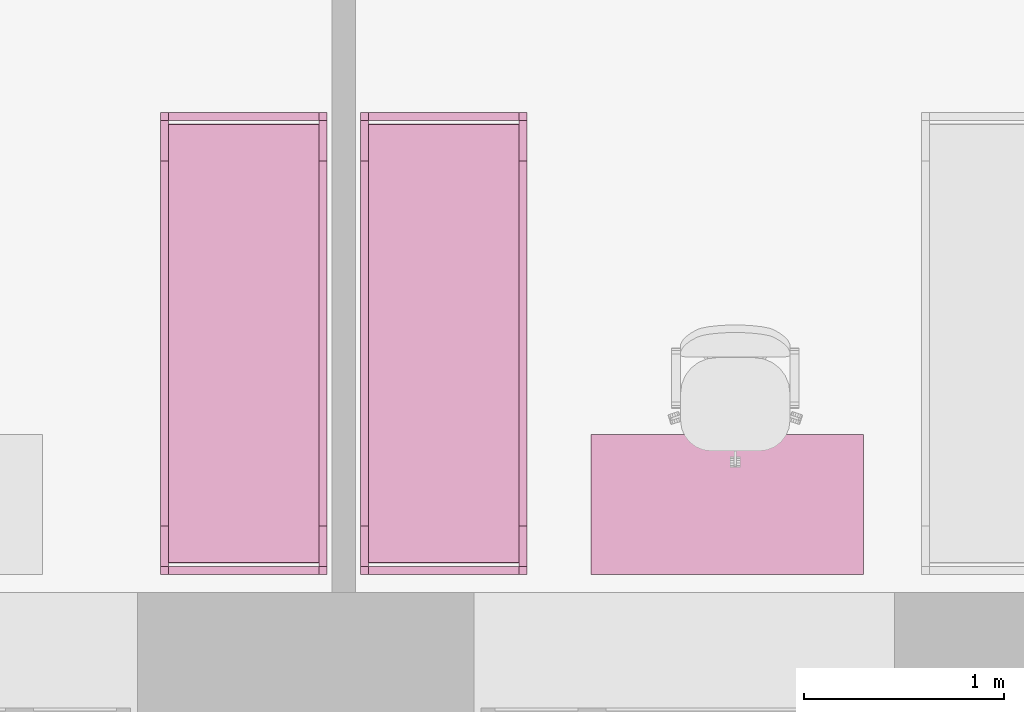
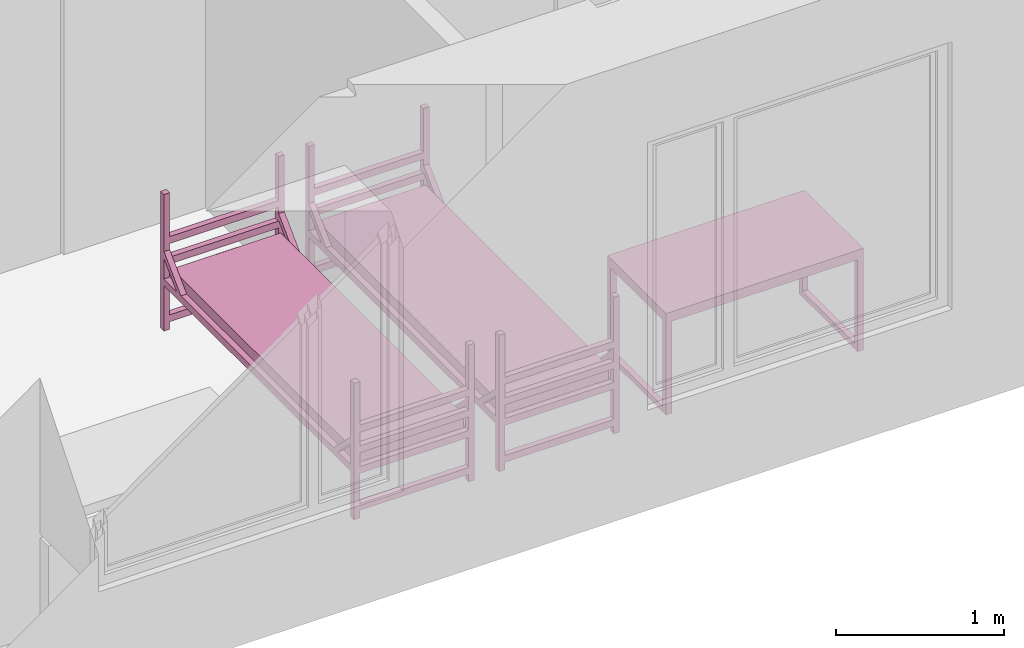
# One storey, part 29 of 46: 3 furnishings.
"""IFC2X3 building model written with IfcOpenShell, lengths in millimetres."""

from ifc_helpers import new_model, entity, si_unit, converted_unit, derived_unit, direction, frame, frame_2d, origin, origin_2d_with_axis, place, context, subcontext, project, spatial, polyline, circle_curve, parameter, trimmed, segment, composite_curve, rectangle, outline, extrude, faceted_brep, source, transform, mapped, material, material_list, type_object, type_shapes, element, save


model = new_model("IFC2X3")

# Units and contexts
model_context = context("Model", 3, precision=0.01, world=origin(), true_north=direction((6.12303176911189e-17, 1.0)))
body_context = subcontext(model_context, "Body", "Model", "MODEL_VIEW")
ifc_project = project(units=[si_unit("LENGTHUNIT", "METRE", prefix="MILLI"), si_unit("AREAUNIT", "SQUARE_METRE"), si_unit("VOLUMEUNIT", "CUBIC_METRE"), converted_unit("PLANEANGLEUNIT", "DEGREE", entity("IfcRatioMeasure", 0.0174532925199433), si_unit("PLANEANGLEUNIT", "RADIAN"), dimensions=[0, 0, 0, 0, 0, 0, 0]), si_unit("MASSUNIT", "GRAM", prefix="KILO"), derived_unit("MASSDENSITYUNIT", [(si_unit("MASSUNIT", "GRAM", prefix="KILO"), 1), (si_unit("LENGTHUNIT", "METRE"), -3)]), si_unit("TIMEUNIT", "SECOND"), si_unit("FREQUENCYUNIT", "HERTZ"), si_unit("THERMODYNAMICTEMPERATUREUNIT", "DEGREE_CELSIUS"), derived_unit("THERMALTRANSMITTANCEUNIT", [(si_unit("MASSUNIT", "GRAM", prefix="KILO"), 1), (si_unit("THERMODYNAMICTEMPERATUREUNIT", "KELVIN"), -1), (si_unit("TIMEUNIT", "SECOND"), -3)]), derived_unit("VOLUMETRICFLOWRATEUNIT", [(si_unit("LENGTHUNIT", "METRE"), 3), (si_unit("TIMEUNIT", "SECOND"), -1)]), si_unit("ELECTRICCURRENTUNIT", "AMPERE"), si_unit("ELECTRICVOLTAGEUNIT", "VOLT"), si_unit("POWERUNIT", "WATT"), si_unit("FORCEUNIT", "NEWTON", prefix="KILO"), si_unit("ILLUMINANCEUNIT", "LUX"), si_unit("LUMINOUSFLUXUNIT", "LUMEN"), si_unit("LUMINOUSINTENSITYUNIT", "CANDELA"), derived_unit("USERDEFINED", [(si_unit("MASSUNIT", "GRAM", prefix="KILO"), -1), (si_unit("LENGTHUNIT", "METRE"), -2), (si_unit("TIMEUNIT", "SECOND"), 3), (si_unit("LUMINOUSFLUXUNIT", "LUMEN"), 1)]), derived_unit("LINEARVELOCITYUNIT", [(si_unit("LENGTHUNIT", "METRE"), 1), (si_unit("TIMEUNIT", "SECOND"), -1)]), si_unit("PRESSUREUNIT", "PASCAL"), derived_unit("USERDEFINED", [(si_unit("LENGTHUNIT", "METRE"), -2), (si_unit("MASSUNIT", "GRAM", prefix="KILO"), 1), (si_unit("TIMEUNIT", "SECOND"), -2)]), derived_unit("LINEARFORCEUNIT", [(si_unit("MASSUNIT", "GRAM", prefix="KILO"), 1), (si_unit("LENGTHUNIT", "METRE"), 1), (si_unit("TIMEUNIT", "SECOND"), -2), (si_unit("LENGTHUNIT", "METRE"), -1)]), derived_unit("PLANARFORCEUNIT", [(si_unit("MASSUNIT", "GRAM", prefix="KILO"), 1), (si_unit("LENGTHUNIT", "METRE"), 1), (si_unit("TIMEUNIT", "SECOND"), -2), (si_unit("LENGTHUNIT", "METRE"), -2)])], contexts=[model_context])

# Site, building, storey, space
site_placement = place(None, origin())
site = spatial("IfcSite", under=ifc_project, at=site_placement, Name="Default", CompositionType="ELEMENT")
building_placement = place(site_placement, origin())
building = spatial("IfcBuilding", under=site, at=building_placement, Name="SMA ARH", CompositionType="ELEMENT")
storey_placement = place(building_placement, origin())
storey = spatial("IfcBuildingStorey", under=building, at=storey_placement, Name="1 Korrus", CompositionType="ELEMENT", Elevation=0.0)
space_1_placement = place(storey_placement, origin())
space_1 = spatial("IfcSpace", under=storey, at=space_1_placement, Name="1-14", CompositionType="ELEMENT", InteriorOrExteriorSpace="INTERNAL")

# Furnishing
ifc_material_1 = material(Name="Madrats")
furniture_type_1 = type_object("IfcFurnitureType", Name="Kasarmu voodi ühekordne 2308x830:Kasarmu voodi ühekordne 2308x830", material=ifc_material_1)
shared_shape_1 = source(origin(), body_context, "Body", "SweptSolid", [
    extrude(rectangle(XDim=39.9999999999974, YDim=750.000000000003, at=frame_2d((-1.35003119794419e-13, -2.8421709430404e-14), x_axis=(1.0, 0.0))), frame((1.68638457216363, -1226.7969571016, 55.0), z_axis=(0.0, 0.0, 1.0), x_axis=(0.0, -1.0, 0.0)), (0.0, 0.0, 1.0), 49.9999999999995),
    extrude(rectangle(XDim=39.9999999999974, YDim=750.000000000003, at=frame_2d((-1.35003119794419e-13, -2.8421709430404e-14), x_axis=(1.0, 0.0))), frame((1.68638457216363, -1226.7969571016, 325.0), z_axis=(0.0, 0.0, 1.0), x_axis=(0.0, -1.0, 0.0)), (0.0, 0.0, 1.0), 49.9999999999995),
    extrude(rectangle(XDim=39.9999999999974, YDim=750.000000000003, at=frame_2d((-1.35003119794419e-13, -2.8421709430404e-14), x_axis=(1.0, 0.0))), frame((1.68638457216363, -1226.7969571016, 475.0), z_axis=(0.0, 0.0, 1.0), x_axis=(0.0, -1.0, 0.0)), (0.0, 0.0, 1.0), 49.9999999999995),
    extrude(rectangle(XDim=39.9999999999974, YDim=750.000000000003, at=frame_2d((-1.35003119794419e-13, -2.8421709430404e-14), x_axis=(1.0, 0.0))), frame((1.68638457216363, -1226.7969571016, 625.0), z_axis=(0.0, 0.0, 1.0), x_axis=(0.0, -1.0, 0.0)), (0.0, 0.0, 1.0), 50.0000000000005),
    extrude(rectangle(XDim=39.9999999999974, YDim=750.000000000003, at=frame_2d((1.35003119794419e-13, -2.8421709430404e-14), x_axis=(1.0, 0.0))), frame((1.68638457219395, 1041.2030428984, 55.0), z_axis=(0.0, 0.0, 1.0), x_axis=(0.0, -1.0, 0.0)), (0.0, 0.0, 1.0), 50.0000000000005),
    extrude(rectangle(XDim=39.9999999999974, YDim=750.000000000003, at=frame_2d((1.35003119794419e-13, -2.8421709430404e-14), x_axis=(1.0, 0.0))), frame((1.68638457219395, 1041.2030428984, 325.0), z_axis=(0.0, 0.0, 1.0), x_axis=(0.0, -1.0, 0.0)), (0.0, 0.0, 1.0), 50.0000000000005),
    extrude(rectangle(XDim=39.9999999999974, YDim=750.000000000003, at=frame_2d((1.35003119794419e-13, -2.8421709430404e-14), x_axis=(1.0, 0.0))), frame((1.68638457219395, 1041.2030428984, 475.0), z_axis=(0.0, 0.0, 1.0), x_axis=(0.0, -1.0, 0.0)), (0.0, 0.0, 1.0), 50.0000000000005),
    extrude(rectangle(XDim=39.9999999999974, YDim=750.000000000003, at=frame_2d((1.35003119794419e-13, -2.8421709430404e-14), x_axis=(1.0, 0.0))), frame((1.68638457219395, 1041.2030428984, 625.0), z_axis=(0.0, 0.0, 1.0), x_axis=(0.0, -1.0, 0.0)), (0.0, 0.0, 1.0), 49.9999999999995),
    extrude(outline(composite_curve([segment(trimmed(circle_curve(frame_2d((1085.0, -40.0), x_axis=(1.0, 0.0)), 10.0), [parameter(270.0)], [parameter(0.0)], True, "PARAMETER"), True, "CONTINUOUS"), segment(polyline([(1095.0, -40.0), (1095.0, 40.0)]), True, "CONTINUOUS"), segment(trimmed(circle_curve(frame_2d((1085.0, 40.0), x_axis=(1.0, 0.0)), 10.0), [parameter(0.0)], [parameter(90.0000000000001)], True, "PARAMETER"), True, "CONTINUOUS"), segment(polyline([(1085.0, 50.0), (-1085.0, 50.0)]), True, "CONTINUOUS"), segment(trimmed(circle_curve(frame_2d((-1085.0, 40.0), x_axis=(1.0, 0.0)), 10.0), [parameter(90.0000000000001)], [parameter(180.0)], True, "PARAMETER"), True, "CONTINUOUS"), segment(polyline([(-1095.0, 40.0), (-1095.0, -40.0)]), True, "CONTINUOUS"), segment(trimmed(circle_curve(frame_2d((-1085.0, -40.0), x_axis=(1.0, 0.0)), 10.0), [parameter(180.0)], [parameter(270.0)], True, "PARAMETER"), True, "CONTINUOUS"), segment(polyline([(-1085.0, -50.0), (1085.0, -50.0)]), True, "CONTINUOUS")], self_intersect=False)), frame((-373.313615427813, -92.7969571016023, 405.0), z_axis=(1.0, 0.0, 0.0), x_axis=(0.0, -1.0, 0.0)), (0.0, 0.0, 1.0), 750.000000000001),
    extrude(outline(polyline([(-1114.0, -100.0), (1114.0, -100.0), (1114.0, -50.0), (961.59199141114, -50.0), (1114.0, 100.0), (1114.0, 150.0), (910.789321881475, -50.0), (-910.789321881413, -50.0), (-1114.0, 150.0), (-1114.0, 100.0), (-961.591991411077, -50.0), (-1114.0, -50.0), (-1114.0, -100.0)])), frame((-413.313615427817, -92.7969571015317, 430.0), z_axis=(1.0, 0.0, 0.0), x_axis=(0.0, 1.0, 0.0)), (0.0, 0.0, 1.0), 39.9999999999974),
    extrude(outline(polyline([(-1114.0, -100.0), (1114.0, -100.0), (1114.0, -50.0), (961.591991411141, -50.0), (1114.0, 100.0), (1114.0, 150.0), (910.789321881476, -50.0), (-910.789321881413, -50.0), (-1114.0, 150.0), (-1114.0, 100.0), (-961.591991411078, -50.0), (-1114.0, -50.0), (-1114.0, -100.0)])), frame((376.686384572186, -92.796957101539, 430.0), z_axis=(1.0, 0.0, 0.0), x_axis=(0.0, 1.0, 0.0)), (0.0, 0.0, 1.0), 39.9999999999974),
    extrude(rectangle(XDim=39.9999999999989, YDim=39.9999999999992, at=frame_2d((-6.75015598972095e-14, 0.0), x_axis=(1.0, 0.0))), frame((396.686384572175, -1226.79695710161, 0.0), z_axis=(0.0, 0.0, 1.0), x_axis=(0.0, 1.0, 0.0)), (0.0, 0.0, 1.0), 995.0),
    extrude(rectangle(XDim=39.9999999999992, YDim=39.9999999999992, at=frame_2d((-1.35003119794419e-13, 0.0), x_axis=(1.0, 0.0))), frame((396.686384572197, 1041.20304289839, 0.0), z_axis=(0.0, 0.0, 1.0), x_axis=(0.0, 1.0, 0.0)), (0.0, 0.0, 1.0), 995.0),
    extrude(rectangle(XDim=40.0000000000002, YDim=39.9999999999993, at=frame_2d((-1.35003119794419e-13, 0.0), x_axis=(1.0, 0.0))), frame((-393.313615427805, 1041.2030428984, 0.0), z_axis=(0.0, 0.0, 1.0), x_axis=(0.0, 1.0, 0.0)), (0.0, 0.0, 1.0), 995.0),
    extrude(rectangle(XDim=39.9999999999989, YDim=39.9999999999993, at=frame_2d((-6.75015598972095e-14, 0.0), x_axis=(1.0, 0.0))), frame((-393.313615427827, -1226.7969571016, 0.0), z_axis=(0.0, 0.0, 1.0), x_axis=(0.0, 1.0, 0.0)), (0.0, 0.0, 1.0), 995.0),
])
type_shapes(furniture_type_1, [shared_shape_1])
furnishing_1_placement = place(space_1_placement, frame((7628.8136154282, 1336.79695710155, 0.0)))
element("IfcFurnishingElement", 1, at=furnishing_1_placement, inside=space_1, type_object=furniture_type_1, material=ifc_material_1, Name="Kasarmu voodi ühekordne 2308x830:Kasarmu voodi ühekordne 2308x830", ObjectType="Kasarmu voodi ühekordne 2308x830:Kasarmu voodi ühekordne 2308x830", context=body_context, shape_type="MappedRepresentation", body=[
    mapped(shared_shape_1, transform((0.0, 0.0, 0.0), scale=1.0)),
])

# Space
space_2_placement = place(storey_placement, origin())
space_2 = spatial("IfcSpace", under=storey, at=space_2_placement, Name="1-13", CompositionType="ELEMENT", InteriorOrExteriorSpace="INTERNAL")

# Furnishings
ifc_material_2 = material(Name="<Unnamed>")
ifc_material_list = material_list([ifc_material_2, ifc_material_2])
furniture_type_2 = type_object("IfcFurnitureType", Name="kirjutuslaud 1360x700mm:kirjutuslaud 1360x700mm", material=ifc_material_list)
shared_shape_2 = source(origin(), body_context, "Body", "Brep", [
    faceted_brep([(680.0, -350.0, 720.0), (680.0, 350.0, 720.0), (680.0, 350.0, 750.0), (680.0, -350.0, 750.0), (-680.0, -350.0, 720.0), (-680.0, -350.0, 750.0), (-680.0, 350.0, 750.0), (-680.0, 350.0, 720.0)], [[[0, 1, 2, 3]], [[4, 5, 6, 7]], [[1, 0, 4, 7]], [[2, 1, 7, 6]], [[3, 2, 6, 5]], [[0, 3, 5, 4]]]),
    faceted_brep([(-640.0, -310.0, 680.0), (-640.0, 310.0, 680.0), (-640.0, 310.0, 720.0), (-640.0, -310.0, 720.0), (-680.0, -350.0, 720.0), (-680.0, 350.0, 720.0), (-680.0, 350.0, 10.0), (-680.0, -350.0, 10.0), (-680.0, 310.0, 680.0), (-680.0, -310.0, 680.0), (-680.0, -310.0, 50.0), (-680.0, 310.0, 50.0), (-640.0, -350.0, 10.0), (-640.0, -350.0, 680.0), (640.0, -350.0, 680.0), (640.0, -350.0, 10.0), (680.0, -350.0, 10.0), (680.0, -350.0, 720.0), (-640.0, 350.0, 10.0), (680.0, 350.0, 720.0), (680.0, 350.0, 10.0), (640.0, 350.0, 10.0), (640.0, 350.0, 680.0), (-640.0, 350.0, 680.0), (640.0, 310.0, 720.0), (640.0, -310.0, 720.0), (-640.0, 310.0, 50.0), (-640.0, -310.0, 50.0), (640.0, -310.0, 680.0), (640.0, 310.0, 680.0), (680.0, 310.0, 680.0), (680.0, 310.0, 50.0), (680.0, -310.0, 50.0), (680.0, -310.0, 680.0), (640.0, -310.0, 50.0), (640.0, 310.0, 50.0)], [[[0, 1, 2, 3]], [[4, 5, 6, 7], [8, 9, 10, 11]], [[4, 7, 12, 13, 14, 15, 16, 17]], [[18, 12, 7, 6]], [[6, 5, 19, 20, 21, 22, 23, 18]], [[19, 5, 4, 17], [2, 24, 25, 3]], [[26, 1, 8, 11]], [[27, 26, 11, 10]], [[0, 27, 10, 9]], [[1, 0, 9, 8]], [[14, 13, 0, 28]], [[24, 2, 1, 29]], [[3, 25, 28, 0]], [[17, 16, 20, 19], [30, 31, 32, 33]], [[21, 15, 14, 28, 34, 35, 29, 22]], [[20, 16, 15, 21]], [[31, 30, 29, 35]], [[32, 31, 35, 34]], [[33, 32, 34, 28]], [[30, 33, 28, 29]], [[29, 28, 25, 24]], [[29, 1, 23, 22]], [[12, 18, 23, 1, 26, 27, 0, 13]]]),
    faceted_brep([(-663.729456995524, -270.466136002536, 0.0), (-659.847171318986, -269.955023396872, 0.0), (-655.964885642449, -270.466136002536, 0.0), (-652.347171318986, -271.964642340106, 0.0), (-649.240569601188, -274.348421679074, 0.0), (-646.85679026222, -277.455023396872, 0.0), (-645.35828392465, -281.072737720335, 0.0), (-644.847171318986, -284.955023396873, 0.0), (-645.35828392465, -288.83730907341, 0.0), (-646.85679026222, -292.455023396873, 0.0), (-649.240569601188, -295.561625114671, 0.0), (-652.347171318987, -297.945404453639, 0.0), (-655.964885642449, -299.443910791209, 0.0), (-659.847171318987, -299.955023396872, 0.0), (-663.729456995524, -299.443910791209, 0.0), (-667.347171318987, -297.945404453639, 0.0), (-670.453773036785, -295.561625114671, 0.0), (-672.837552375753, -292.455023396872, 0.0), (-674.336058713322, -288.83730907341, 0.0), (-674.847171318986, -284.955023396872, 0.0), (-674.336058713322, -281.072737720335, 0.0), (-672.837552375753, -277.455023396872, 0.0), (-670.453773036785, -274.348421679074, 0.0), (-667.347171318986, -271.964642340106, 0.0), (-655.964885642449, -299.443910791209, 10.0), (-652.347171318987, -297.945404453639, 10.0), (-649.240569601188, -295.561625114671, 10.0), (-646.85679026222, -292.455023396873, 10.0), (-645.35828392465, -288.83730907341, 10.0), (-644.847171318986, -284.955023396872, 10.0), (-645.35828392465, -281.072737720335, 10.0), (-646.85679026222, -277.455023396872, 10.0), (-649.240569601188, -274.348421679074, 10.0), (-652.347171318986, -271.964642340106, 10.0), (-655.964885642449, -270.466136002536, 10.0), (-659.847171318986, -269.955023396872, 10.0), (-663.729456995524, -270.466136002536, 10.0), (-667.347171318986, -271.964642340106, 10.0), (-670.453773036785, -274.348421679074, 10.0), (-672.837552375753, -277.455023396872, 10.0), (-674.336058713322, -281.072737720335, 10.0), (-674.847171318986, -284.955023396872, 10.0), (-674.336058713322, -288.83730907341, 10.0), (-672.837552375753, -292.455023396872, 10.0), (-670.453773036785, -295.561625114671, 10.0), (-667.347171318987, -297.945404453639, 10.0), (-663.729456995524, -299.443910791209, 10.0), (-659.847171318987, -299.955023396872, 10.0)], [[[0, 1, 2, 3, 4, 5, 6, 7, 8, 9, 10, 11, 12, 13, 14, 15, 16, 17, 18, 19, 20, 21, 22, 23]], [[24, 25, 26, 27, 28, 29, 30, 31, 32, 33, 34, 35, 36, 37, 38, 39, 40, 41, 42, 43, 44, 45, 46, 47]], [[18, 42, 41, 19]], [[17, 43, 42, 18]], [[45, 44, 16, 15]], [[17, 16, 44, 43]], [[46, 45, 15, 14]], [[47, 46, 14, 13]], [[12, 24, 47, 13]], [[11, 25, 24, 12]], [[27, 26, 10, 9]], [[11, 10, 26, 25]], [[28, 27, 9, 8]], [[29, 28, 8, 7]], [[6, 30, 29, 7]], [[5, 31, 30, 6]], [[33, 32, 4, 3]], [[5, 4, 32, 31]], [[34, 33, 3, 2]], [[35, 34, 2, 1]], [[0, 36, 35, 1]], [[23, 37, 36, 0]], [[39, 38, 22, 21]], [[23, 22, 38, 37]], [[40, 39, 21, 20]], [[41, 40, 20, 19]]]),
    faceted_brep([(-655.964885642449, 270.466136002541, 10.0), (-652.347171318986, 271.964642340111, 10.0), (-649.240569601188, 274.348421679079, 10.0), (-646.85679026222, 277.455023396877, 10.0), (-645.35828392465, 281.07273772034, 10.0), (-644.847171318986, 284.955023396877, 10.0), (-645.35828392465, 288.837309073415, 10.0), (-646.85679026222, 292.455023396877, 10.0), (-649.240569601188, 295.561625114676, 10.0), (-652.347171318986, 297.945404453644, 10.0), (-655.964885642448, 299.443910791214, 10.0), (-659.847171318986, 299.955023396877, 10.0), (-663.729456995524, 299.443910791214, 10.0), (-667.347171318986, 297.945404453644, 10.0), (-670.453773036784, 295.561625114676, 10.0), (-672.837552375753, 292.455023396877, 10.0), (-674.336058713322, 288.837309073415, 10.0), (-674.847171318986, 284.955023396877, 10.0), (-674.336058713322, 281.07273772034, 10.0), (-672.837552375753, 277.455023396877, 10.0), (-670.453773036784, 274.348421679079, 10.0), (-667.347171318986, 271.964642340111, 10.0), (-663.729456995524, 270.466136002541, 10.0), (-659.847171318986, 269.955023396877, 10.0), (-655.964885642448, 299.443910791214, 0.0), (-652.347171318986, 297.945404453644, 0.0), (-649.240569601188, 295.561625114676, 0.0), (-646.85679026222, 292.455023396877, 0.0), (-645.35828392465, 288.837309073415, 0.0), (-644.847171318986, 284.955023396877, 0.0), (-645.35828392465, 281.07273772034, 0.0), (-646.85679026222, 277.455023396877, 0.0), (-649.240569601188, 274.348421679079, 0.0), (-652.347171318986, 271.964642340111, 0.0), (-655.964885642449, 270.466136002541, 0.0), (-659.847171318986, 269.955023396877, 0.0), (-663.729456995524, 270.466136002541, 0.0), (-667.347171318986, 271.964642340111, 0.0), (-670.453773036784, 274.348421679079, 0.0), (-672.837552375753, 277.455023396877, 0.0), (-674.336058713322, 281.07273772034, 0.0), (-674.847171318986, 284.955023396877, 0.0), (-674.336058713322, 288.837309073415, 0.0), (-672.837552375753, 292.455023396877, 0.0), (-670.453773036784, 295.561625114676, 0.0), (-667.347171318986, 297.945404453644, 0.0), (-663.729456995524, 299.443910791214, 0.0), (-659.847171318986, 299.955023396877, 0.0)], [[[0, 1, 2, 3, 4, 5, 6, 7, 8, 9, 10, 11, 12, 13, 14, 15, 16, 17, 18, 19, 20, 21, 22, 23]], [[24, 25, 26, 27, 28, 29, 30, 31, 32, 33, 34, 35, 36, 37, 38, 39, 40, 41, 42, 43, 44, 45, 46, 47]], [[40, 18, 17, 41]], [[39, 19, 18, 40]], [[21, 20, 38, 37]], [[39, 38, 20, 19]], [[22, 21, 37, 36]], [[23, 22, 36, 35]], [[34, 0, 23, 35]], [[33, 1, 0, 34]], [[3, 2, 32, 31]], [[33, 32, 2, 1]], [[4, 3, 31, 30]], [[5, 4, 30, 29]], [[28, 6, 5, 29]], [[27, 7, 6, 28]], [[9, 8, 26, 25]], [[27, 26, 8, 7]], [[10, 9, 25, 24]], [[11, 10, 24, 47]], [[46, 12, 11, 47]], [[45, 13, 12, 46]], [[15, 14, 44, 43]], [[45, 44, 14, 13]], [[16, 15, 43, 42]], [[17, 16, 42, 41]]]),
    faceted_brep([(656.270543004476, -270.466136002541, 0.0), (660.152828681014, -269.955023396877, 0.0), (664.035114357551, -270.466136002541, 0.0), (667.652828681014, -271.96464234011, 0.0), (670.759430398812, -274.348421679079, 0.0), (673.14320973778, -277.455023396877, 0.0), (674.64171607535, -281.072737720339, 0.0), (675.152828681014, -284.955023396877, 0.0), (674.64171607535, -288.837309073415, 0.0), (673.14320973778, -292.455023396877, 0.0), (670.759430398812, -295.561625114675, 0.0), (667.652828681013, -297.945404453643, 0.0), (664.035114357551, -299.443910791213, 0.0), (660.152828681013, -299.955023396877, 0.0), (656.270543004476, -299.443910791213, 0.0), (652.652828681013, -297.945404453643, 0.0), (649.546226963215, -295.561625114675, 0.0), (647.162447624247, -292.455023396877, 0.0), (645.663941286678, -288.837309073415, 0.0), (645.152828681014, -284.955023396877, 0.0), (645.663941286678, -281.072737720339, 0.0), (647.162447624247, -277.455023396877, 0.0), (649.546226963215, -274.348421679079, 0.0), (652.652828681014, -271.96464234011, 0.0), (664.035114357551, -299.443910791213, 10.0), (667.652828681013, -297.945404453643, 10.0), (670.759430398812, -295.561625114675, 10.0), (673.14320973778, -292.455023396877, 10.0), (674.64171607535, -288.837309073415, 10.0), (675.152828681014, -284.955023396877, 10.0), (674.64171607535, -281.072737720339, 10.0), (673.14320973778, -277.455023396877, 10.0), (670.759430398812, -274.348421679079, 10.0), (667.652828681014, -271.96464234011, 10.0), (664.035114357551, -270.466136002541, 10.0), (660.152828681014, -269.955023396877, 10.0), (656.270543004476, -270.466136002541, 10.0), (652.652828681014, -271.96464234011, 10.0), (649.546226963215, -274.348421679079, 10.0), (647.162447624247, -277.455023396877, 10.0), (645.663941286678, -281.072737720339, 10.0), (645.152828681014, -284.955023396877, 10.0), (645.663941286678, -288.837309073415, 10.0), (647.162447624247, -292.455023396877, 10.0), (649.546226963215, -295.561625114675, 10.0), (652.652828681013, -297.945404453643, 10.0), (656.270543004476, -299.443910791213, 10.0), (660.152828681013, -299.955023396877, 10.0)], [[[0, 1, 2, 3, 4, 5, 6, 7, 8, 9, 10, 11, 12, 13, 14, 15, 16, 17, 18, 19, 20, 21, 22, 23]], [[24, 25, 26, 27, 28, 29, 30, 31, 32, 33, 34, 35, 36, 37, 38, 39, 40, 41, 42, 43, 44, 45, 46, 47]], [[18, 42, 41, 19]], [[17, 43, 42, 18]], [[45, 44, 16, 15]], [[17, 16, 44, 43]], [[46, 45, 15, 14]], [[47, 46, 14, 13]], [[12, 24, 47, 13]], [[11, 25, 24, 12]], [[27, 26, 10, 9]], [[11, 10, 26, 25]], [[28, 27, 9, 8]], [[29, 28, 8, 7]], [[6, 30, 29, 7]], [[5, 31, 30, 6]], [[33, 32, 4, 3]], [[5, 4, 32, 31]], [[34, 33, 3, 2]], [[35, 34, 2, 1]], [[0, 36, 35, 1]], [[23, 37, 36, 0]], [[39, 38, 22, 21]], [[23, 22, 38, 37]], [[40, 39, 21, 20]], [[41, 40, 20, 19]]]),
    faceted_brep([(664.035114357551, 270.466136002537, 10.0), (667.652828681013, 271.964642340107, 10.0), (670.759430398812, 274.348421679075, 10.0), (673.14320973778, 277.455023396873, 10.0), (674.64171607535, 281.072737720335, 10.0), (675.152828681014, 284.955023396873, 10.0), (674.64171607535, 288.837309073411, 10.0), (673.14320973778, 292.455023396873, 10.0), (670.759430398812, 295.561625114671, 10.0), (667.652828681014, 297.94540445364, 10.0), (664.035114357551, 299.443910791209, 10.0), (660.152828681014, 299.955023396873, 10.0), (656.270543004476, 299.443910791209, 10.0), (652.652828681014, 297.94540445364, 10.0), (649.546226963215, 295.561625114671, 10.0), (647.162447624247, 292.455023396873, 10.0), (645.663941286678, 288.837309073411, 10.0), (645.152828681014, 284.955023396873, 10.0), (645.663941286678, 281.072737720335, 10.0), (647.162447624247, 277.455023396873, 10.0), (649.546226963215, 274.348421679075, 10.0), (652.652828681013, 271.964642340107, 10.0), (656.270543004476, 270.466136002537, 10.0), (660.152828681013, 269.955023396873, 10.0), (664.035114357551, 299.443910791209, 0.0), (667.652828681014, 297.94540445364, 0.0), (670.759430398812, 295.561625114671, 0.0), (673.14320973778, 292.455023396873, 0.0), (674.64171607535, 288.837309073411, 0.0), (675.152828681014, 284.955023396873, 0.0), (674.64171607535, 281.072737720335, 0.0), (673.14320973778, 277.455023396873, 0.0), (670.759430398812, 274.348421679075, 0.0), (667.652828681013, 271.964642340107, 0.0), (664.035114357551, 270.466136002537, 0.0), (660.152828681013, 269.955023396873, 0.0), (656.270543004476, 270.466136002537, 0.0), (652.652828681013, 271.964642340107, 0.0), (649.546226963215, 274.348421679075, 0.0), (647.162447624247, 277.455023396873, 0.0), (645.663941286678, 281.072737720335, 0.0), (645.152828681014, 284.955023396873, 0.0), (645.663941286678, 288.837309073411, 0.0), (647.162447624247, 292.455023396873, 0.0), (649.546226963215, 295.561625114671, 0.0), (652.652828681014, 297.94540445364, 0.0), (656.270543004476, 299.443910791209, 0.0), (660.152828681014, 299.955023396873, 0.0)], [[[0, 1, 2, 3, 4, 5, 6, 7, 8, 9, 10, 11, 12, 13, 14, 15, 16, 17, 18, 19, 20, 21, 22, 23]], [[24, 25, 26, 27, 28, 29, 30, 31, 32, 33, 34, 35, 36, 37, 38, 39, 40, 41, 42, 43, 44, 45, 46, 47]], [[40, 18, 17, 41]], [[39, 19, 18, 40]], [[21, 20, 38, 37]], [[39, 38, 20, 19]], [[22, 21, 37, 36]], [[23, 22, 36, 35]], [[34, 0, 23, 35]], [[33, 1, 0, 34]], [[3, 2, 32, 31]], [[33, 32, 2, 1]], [[4, 3, 31, 30]], [[5, 4, 30, 29]], [[28, 6, 5, 29]], [[27, 7, 6, 28]], [[9, 8, 26, 25]], [[27, 26, 8, 7]], [[10, 9, 25, 24]], [[11, 10, 24, 47]], [[46, 12, 11, 47]], [[45, 13, 12, 46]], [[15, 14, 44, 43]], [[45, 44, 14, 13]], [[16, 15, 43, 42]], [[17, 16, 42, 41]]]),
])
type_shapes(furniture_type_2, [shared_shape_2])
furnishing_2_placement = place(space_2_placement, frame((10045.5000000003, 440.0, 0.0)))
element("IfcFurnishingElement", 2, at=furnishing_2_placement, inside=space_2, type_object=furniture_type_2, Name="kirjutuslaud 1360x700mm:kirjutuslaud 1360x700mm", ObjectType="kirjutuslaud 1360x700mm:kirjutuslaud 1360x700mm", context=body_context, shape_type="MappedRepresentation", body=[
    mapped(shared_shape_2, transform((0.0, 0.0, 0.0), scale=1.0)),
])
furniture_type_3 = type_object("IfcFurnitureType", Name="Kasarmu voodi ühekordne 2308x830:Kasarmu voodi ühekordne 2308x830", material=ifc_material_1)
shared_shape_3 = source(origin(), body_context, "Body", "SweptSolid", [
    extrude(rectangle(XDim=750.000000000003, YDim=39.9999999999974, at=frame_2d((0.0, 1.35003119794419e-13), x_axis=(1.0, 0.0))), frame((1.68638457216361, 1226.7969571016, 55.0)), (0.0, 0.0, 1.0), 49.9999999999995),
    extrude(rectangle(XDim=750.000000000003, YDim=39.9999999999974, at=frame_2d((0.0, 1.35003119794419e-13), x_axis=(1.0, 0.0))), frame((1.68638457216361, 1226.7969571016, 325.0)), (0.0, 0.0, 1.0), 49.9999999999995),
    extrude(rectangle(XDim=750.000000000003, YDim=39.9999999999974, at=frame_2d((0.0, 1.35003119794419e-13), x_axis=(1.0, 0.0))), frame((1.68638457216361, 1226.7969571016, 475.0)), (0.0, 0.0, 1.0), 49.9999999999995),
    extrude(rectangle(XDim=750.000000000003, YDim=39.9999999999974, at=frame_2d((0.0, 1.35003119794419e-13), x_axis=(1.0, 0.0))), frame((1.68638457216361, 1226.7969571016, 625.0)), (0.0, 0.0, 1.0), 50.0000000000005),
    extrude(rectangle(XDim=750.000000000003, YDim=39.9999999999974, at=origin_2d_with_axis()), frame((1.68638457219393, -1041.2030428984, 55.0)), (0.0, 0.0, 1.0), 50.0000000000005),
    extrude(rectangle(XDim=750.000000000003, YDim=39.9999999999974, at=origin_2d_with_axis()), frame((1.68638457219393, -1041.2030428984, 325.0)), (0.0, 0.0, 1.0), 50.0000000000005),
    extrude(rectangle(XDim=750.000000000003, YDim=39.9999999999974, at=origin_2d_with_axis()), frame((1.68638457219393, -1041.2030428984, 475.0)), (0.0, 0.0, 1.0), 50.0000000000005),
    extrude(rectangle(XDim=750.000000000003, YDim=39.9999999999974, at=origin_2d_with_axis()), frame((1.68638457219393, -1041.2030428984, 625.0)), (0.0, 0.0, 1.0), 49.9999999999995),
    extrude(outline(composite_curve([segment(polyline([(-1085.0, -50.0), (1085.0, -50.0)]), True, "CONTINUOUS"), segment(trimmed(circle_curve(frame_2d((1085.0, -40.0), x_axis=(-1.0, 0.0)), 10.0), [parameter(90.0000000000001)], [parameter(180.0)], True, "PARAMETER"), True, "CONTINUOUS"), segment(polyline([(1095.0, -40.0), (1095.0, 40.0)]), True, "CONTINUOUS"), segment(trimmed(circle_curve(frame_2d((1085.0, 40.0), x_axis=(-1.0, 0.0)), 10.0), [parameter(180.0)], [parameter(270.0)], True, "PARAMETER"), True, "CONTINUOUS"), segment(polyline([(1085.0, 50.0), (-1085.0, 50.0)]), True, "CONTINUOUS"), segment(trimmed(circle_curve(frame_2d((-1085.0, 40.0), x_axis=(-1.0, 0.0)), 10.0), [parameter(270.0)], [parameter(0.0)], True, "PARAMETER"), True, "CONTINUOUS"), segment(polyline([(-1095.0, 40.0), (-1095.0, -40.0)]), True, "CONTINUOUS"), segment(trimmed(circle_curve(frame_2d((-1085.0, -40.0), x_axis=(-1.0, 0.0)), 10.0), [parameter(0.0)], [parameter(90.0000000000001)], True, "PARAMETER"), True, "CONTINUOUS")], self_intersect=False)), frame((-373.313615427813, 92.7969571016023, 405.0), z_axis=(1.0, 0.0, 0.0), x_axis=(0.0, -1.0, 0.0)), (0.0, 0.0, 1.0), 750.000000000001),
    extrude(outline(polyline([(-100.0, -1114.0), (-50.0, -1114.0), (-50.0, -961.591991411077), (100.0, -1114.0), (150.0, -1114.0), (-50.0, -910.789321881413), (-50.0, 910.789321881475), (150.0, 1114.0), (100.0, 1114.0), (-50.0, 961.591991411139), (-50.0, 1114.0), (-100.0, 1114.0), (-100.0, -1114.0)])), frame((-413.313615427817, 92.7969571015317, 430.0), z_axis=(1.0, 0.0, 0.0), x_axis=(0.0, 0.0, 1.0)), (0.0, 0.0, 1.0), 39.9999999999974),
    extrude(outline(polyline([(-100.0, -1114.0), (-50.0, -1114.0), (-50.0, -961.591991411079), (100.0, -1114.0), (150.0, -1114.0), (-50.0, -910.789321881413), (-50.0, 910.789321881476), (150.0, 1114.0), (100.0, 1114.0), (-50.0, 961.591991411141), (-50.0, 1114.0), (-100.0, 1114.0), (-100.0, -1114.0)])), frame((376.686384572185, 92.796957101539, 430.0), z_axis=(1.0, 0.0, 0.0), x_axis=(0.0, 0.0, 1.0)), (0.0, 0.0, 1.0), 39.9999999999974),
    extrude(rectangle(XDim=39.9999999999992, YDim=39.9999999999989, at=frame_2d((0.0, -6.75015598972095e-14), x_axis=(1.0, 0.0))), frame((396.686384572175, 1226.79695710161, 0.0), z_axis=(0.0, 0.0, 1.0), x_axis=(-1.0, 0.0, 0.0)), (0.0, 0.0, 1.0), 995.0),
    extrude(rectangle(XDim=39.9999999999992, YDim=39.9999999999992, at=origin_2d_with_axis()), frame((396.686384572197, -1041.20304289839, 0.0), z_axis=(0.0, 0.0, 1.0), x_axis=(-1.0, 0.0, 0.0)), (0.0, 0.0, 1.0), 995.0),
    extrude(rectangle(XDim=39.9999999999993, YDim=40.0000000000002, at=origin_2d_with_axis()), frame((-393.313615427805, -1041.2030428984, 0.0), z_axis=(0.0, 0.0, 1.0), x_axis=(-1.0, 0.0, 0.0)), (0.0, 0.0, 1.0), 995.0),
    extrude(rectangle(XDim=39.9999999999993, YDim=39.9999999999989, at=frame_2d((0.0, -6.75015598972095e-14), x_axis=(1.0, 0.0))), frame((-393.313615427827, 1226.7969571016, 0.0), z_axis=(0.0, 0.0, 1.0), x_axis=(-1.0, 0.0, 0.0)), (0.0, 0.0, 1.0), 995.0),
])
type_shapes(furniture_type_3, [shared_shape_3])
furnishing_3_placement = place(space_2_placement, frame((8631.18638457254, 1336.79695710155, 0.0), z_axis=(0.0, 0.0, 1.0), x_axis=(-1.0, 0.0, 0.0)))
element("IfcFurnishingElement", 3, at=furnishing_3_placement, inside=space_2, type_object=furniture_type_3, material=ifc_material_1, Name="Kasarmu voodi ühekordne 2308x830:Kasarmu voodi ühekordne 2308x830", ObjectType="Kasarmu voodi ühekordne 2308x830:Kasarmu voodi ühekordne 2308x830", context=body_context, shape_type="MappedRepresentation", body=[
    mapped(shared_shape_3, transform((0.0, 0.0, 0.0), scale=1.0)),
])

save(model, "model.ifc")
